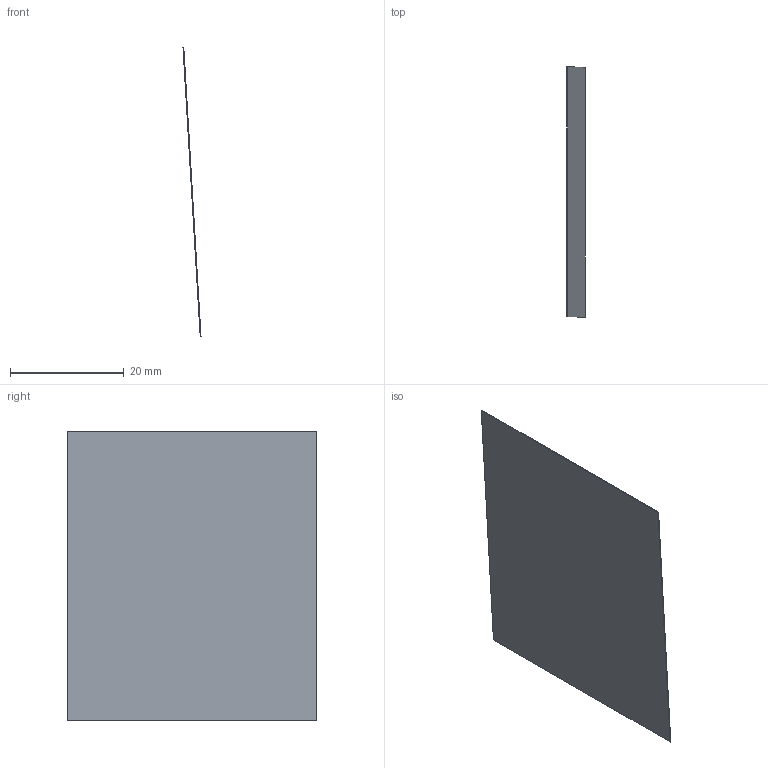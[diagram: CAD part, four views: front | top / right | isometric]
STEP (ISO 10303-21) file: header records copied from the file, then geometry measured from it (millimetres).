
FILE_DESCRIPTION(('Open CASCADE Model'),'2;1');
FILE_NAME('Open CASCADE Shape Model','2026-10-04T01:02:33',('Author'),( 'Open CASCADE'),'Open CASCADE STEP processor 8.0','Open CASCADE 8.0' ,'Unknown');
FILE_SCHEMA(('AUTOMOTIVE_DESIGN { 1 0 10303 214 1 1 1 1 }'));
Length unit declared in the file: millimetre
Products named in the file (1): Open CASCADE STEP translator 8.0 288
Bounding box: 3.18 x 44 x 51.02 mm (x, y, z)
Volume: 337.2 mm3; surface area: 4525.1 mm2
Topology: 1 solids, 1 shells, 6 faces, 12 edges, 8 vertices
Faces by surface type: plane 6
Entity records: 322 total; most frequent: CARTESIAN_POINT 51, DIRECTION 50, LINE 36, VECTOR 36, ORIENTED_EDGE 24, PCURVE 24, DEFINITIONAL_REPRESENTATION 24, EDGE_CURVE 12
